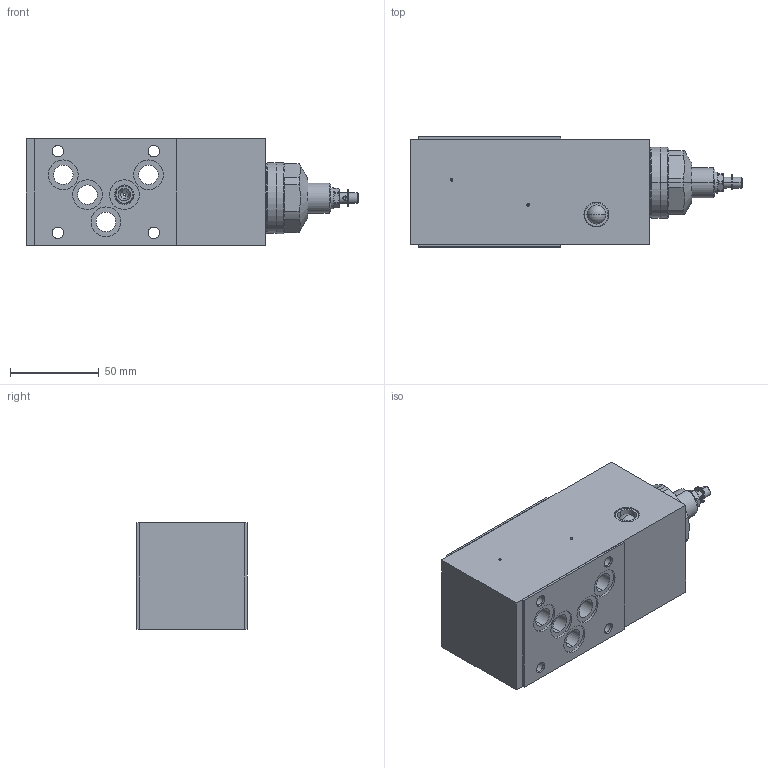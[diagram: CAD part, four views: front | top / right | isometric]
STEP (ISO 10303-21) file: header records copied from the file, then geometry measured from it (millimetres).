
FILE_DESCRIPTION (( 'STEP AP214' ), '1' );
FILE_NAME ('QZSSA10-BV.STEP', '2017-04-12T14:02:24', ( '' ), ( '' ), 'SwSTEP 2.0', 'SolidWorks 2016', '' );
FILE_SCHEMA (( 'AUTOMOTIVE_DESIGN' ));
Length unit declared in the file: millimetre
Products named in the file (1): QZSSA10-BV
Bounding box: 187 x 62 x 60 mm (x, y, z)
Volume: 482119.9 mm3; surface area: 78672.5 mm2
Topology: 5 solids, 7 shells, 355 faces, 892 edges, 562 vertices
Faces by surface type: cylinder 173, plane 108, cone 52, torus 18, sphere 4
Entity records: 15189 total; most frequent: CARTESIAN_POINT 2574, DIRECTION 1897, ORIENTED_EDGE 1756, EDGE_CURVE 878, AXIS2_PLACEMENT_3D 783, VERTEX_POINT 562, EDGE_LOOP 436, CIRCLE 427
